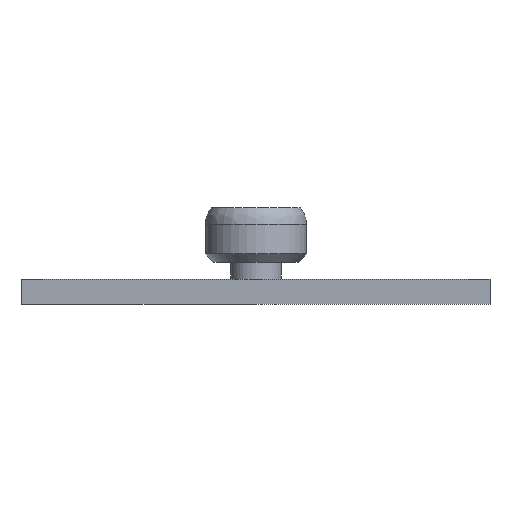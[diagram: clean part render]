
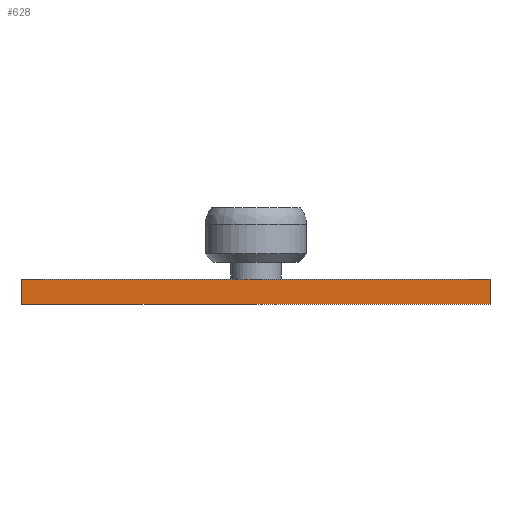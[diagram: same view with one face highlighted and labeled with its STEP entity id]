
A CAD part, front view. The second image highlights one B-rep face of the part: STEP entity #628.
In plain terms, the highlighted planar face has unit normal (0, -1, 0).
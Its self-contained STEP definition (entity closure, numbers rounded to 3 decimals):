
#347=LINE('',#1907,#375);
#352=LINE('',#2263,#380);
#353=LINE('',#2268,#381);
#375=VECTOR('',#1664,1.);
#380=VECTOR('',#1687,1.);
#381=VECTOR('',#1690,1.);
#455=B_SPLINE_CURVE_WITH_KNOTS('',1,(#2270,#2271),.UNSPECIFIED.,.F.,.F.,
(2,2),(0.,1.),.UNSPECIFIED.);
#628=ADVANCED_FACE('',(#693),#660,.T.);
#660=PLANE('',#1604);
#693=FACE_OUTER_BOUND('',#736,.T.);
#736=EDGE_LOOP('',(#855,#856,#857,#858));
#855=ORIENTED_EDGE('',*,*,#1385,.T.);
#856=ORIENTED_EDGE('',*,*,#1435,.T.);
#857=ORIENTED_EDGE('',*,*,#1436,.T.);
#858=ORIENTED_EDGE('',*,*,#1433,.F.);
#1190=VERTEX_POINT('',#1905);
#1192=VERTEX_POINT('',#1908);
#1238=VERTEX_POINT('',#2264);
#1239=VERTEX_POINT('',#2269);
#1385=EDGE_CURVE('',#1192,#1190,#347,.T.);
#1433=EDGE_CURVE('',#1192,#1238,#352,.T.);
#1435=EDGE_CURVE('',#1190,#1239,#353,.T.);
#1436=EDGE_CURVE('',#1239,#1238,#455,.T.);
#1604=AXIS2_PLACEMENT_3D('',#2272,#1691,#1692);
#1664=DIRECTION('',(1.,0.,0.));
#1687=DIRECTION('',(0.,0.,1.));
#1690=DIRECTION('',(0.,0.,1.));
#1691=DIRECTION('',(0.,-1.,0.));
#1692=DIRECTION('',(0.,0.,-1.));
#1905=CARTESIAN_POINT('',(27.75,-25.8,4.715));
#1907=CARTESIAN_POINT('',(0.,-25.8,4.715));
#1908=CARTESIAN_POINT('',(-27.75,-25.8,4.715));
#2263=CARTESIAN_POINT('',(-27.75,-25.8,4.715));
#2264=CARTESIAN_POINT('',(-27.75,-25.8,7.715));
#2268=CARTESIAN_POINT('',(27.75,-25.8,4.715));
#2269=CARTESIAN_POINT('',(27.75,-25.8,7.715));
#2270=CARTESIAN_POINT('',(27.75,-25.8,7.715));
#2271=CARTESIAN_POINT('',(-27.75,-25.8,7.715));
#2272=CARTESIAN_POINT('',(0.,-25.8,4.715));
